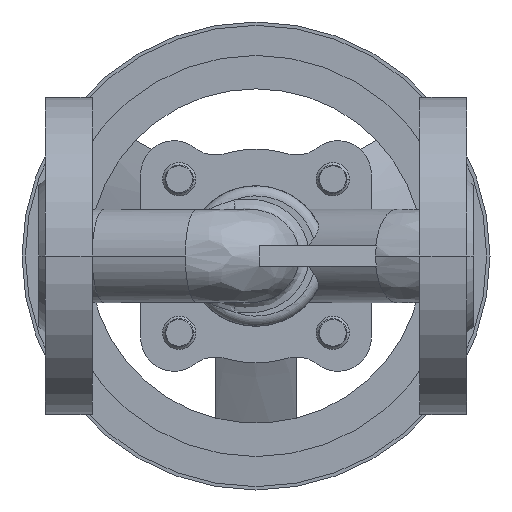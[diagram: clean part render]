
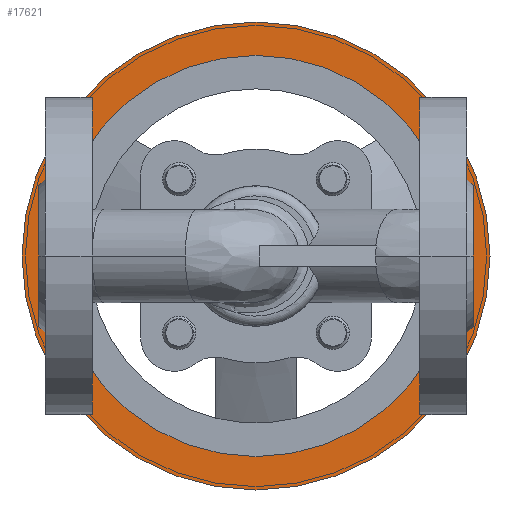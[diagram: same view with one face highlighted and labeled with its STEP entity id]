
A CAD part, front view. The second image highlights one B-rep face of the part: STEP entity #17621.
In plain terms, the highlighted planar face has unit normal (0, -1, 0).
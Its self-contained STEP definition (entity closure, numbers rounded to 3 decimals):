
#17033=CARTESIAN_POINT('',(0.,15.,0.));
#17034=DIRECTION('',(0.,-1.,0.));
#17035=DIRECTION('',(-1.,0.,0.));
#17036=AXIS2_PLACEMENT_3D('',#17033,#17034,#17035);
#17038=CARTESIAN_POINT('',(0.,15.,0.));
#17039=DIRECTION('',(0.,1.,0.));
#17040=DIRECTION('',(-1.,0.,0.));
#17041=AXIS2_PLACEMENT_3D('',#17038,#17039,#17040);
#17043=CARTESIAN_POINT('',(0.,15.,0.));
#17044=DIRECTION('',(0.,1.,0.));
#17045=DIRECTION('',(-1.,0.,0.));
#17046=AXIS2_PLACEMENT_3D('',#17043,#17044,#17045);
#17056=CARTESIAN_POINT('',(0.,15.,0.));
#17057=DIRECTION('',(0.,-1.,0.));
#17058=DIRECTION('',(-1.,0.,0.));
#17059=AXIS2_PLACEMENT_3D('',#17056,#17057,#17058);
#17532=CARTESIAN_POINT('',(-60.,15.,0.));
#17534=VERTEX_POINT('',#17532);
#17536=CARTESIAN_POINT('',(60.,15.,0.));
#17538=VERTEX_POINT('',#17536);
#17540=CARTESIAN_POINT('',(-70.,15.,0.));
#17541=CARTESIAN_POINT('',(70.,15.,0.));
#17542=VERTEX_POINT('',#17540);
#17543=VERTEX_POINT('',#17541);
#17606=CARTESIAN_POINT('',(0.,15.,0.));
#17607=DIRECTION('',(0.,1.,0.));
#17608=DIRECTION('',(1.,0.,0.));
#17609=AXIS2_PLACEMENT_3D('',#17606,#17607,#17608);
#17610=PLANE('',#17609);
#17611=ORIENTED_EDGE('',*,*,#17599,.F.);
#17612=ORIENTED_EDGE('',*,*,#17585,.T.);
#17613=EDGE_LOOP('',(#17611,#17612));
#17614=FACE_OUTER_BOUND('',#17613,.F.);
#17616=ORIENTED_EDGE('',*,*,#17615,.F.);
#17618=ORIENTED_EDGE('',*,*,#17617,.T.);
#17619=EDGE_LOOP('',(#17616,#17618));
#17620=FACE_BOUND('',#17619,.F.);
#17621=ADVANCED_FACE('',(#17614,#17620),#17610,.F.);
#17037=CIRCLE('',#17036,70.);
#17042=CIRCLE('',#17041,70.);
#17047=CIRCLE('',#17046,60.);
#17060=CIRCLE('',#17059,60.);
#17585=EDGE_CURVE('',#17542,#17543,#17042,.T.);
#17599=EDGE_CURVE('',#17542,#17543,#17037,.T.);
#17615=EDGE_CURVE('',#17534,#17538,#17047,.T.);
#17617=EDGE_CURVE('',#17534,#17538,#17060,.T.);
